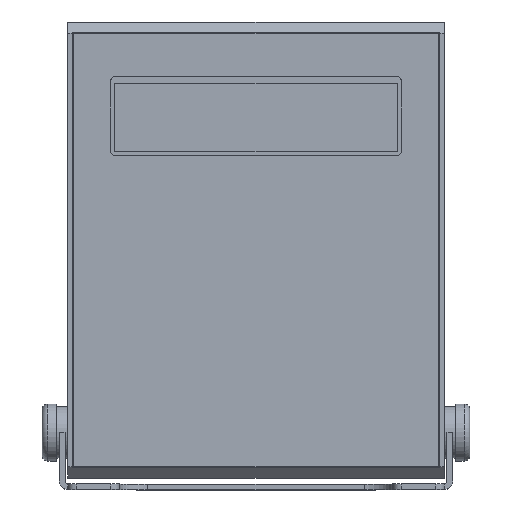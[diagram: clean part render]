
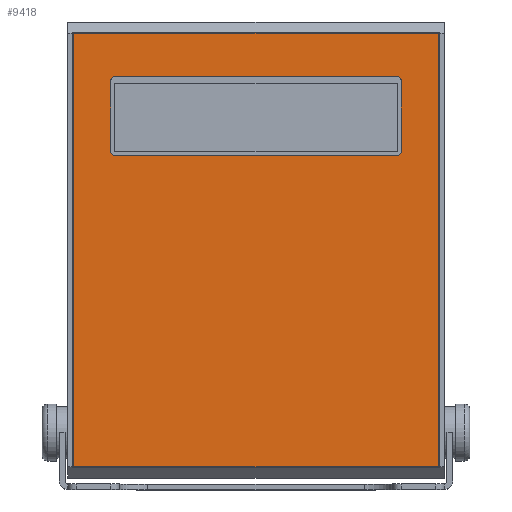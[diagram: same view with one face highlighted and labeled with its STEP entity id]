
A CAD part, top view. The second image highlights one B-rep face of the part: STEP entity #9418.
In plain terms, the highlighted planar face has unit normal (0, 0, 1).
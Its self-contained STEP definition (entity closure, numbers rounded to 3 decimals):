
#22 = EDGE_CURVE ( 'NONE', #6034, #7104, #6963, .T. ) ;
#47 = AXIS2_PLACEMENT_3D ( 'NONE', #2997, #5345, #6392 ) ;
#81 = VERTEX_POINT ( 'NONE', #2320 ) ;
#95 = VERTEX_POINT ( 'NONE', #4885 ) ;
#184 = FACE_BOUND ( 'NONE', #7719, .T. ) ;
#279 = CARTESIAN_POINT ( 'NONE',  ( 51., 59., 0. ) ) ;
#407 = LINE ( 'NONE', #4518, #8745 ) ;
#467 = DIRECTION ( 'NONE',  ( -1., 0., 0. ) ) ;
#568 = DIRECTION ( 'NONE',  ( 0., 0., 1. ) ) ;
#596 = ORIENTED_EDGE ( 'NONE', *, *, #3558, .F. ) ;
#632 = EDGE_CURVE ( 'NONE', #7104, #9065, #9803, .T. ) ;
#809 = DIRECTION ( 'NONE',  ( 1., 0., 0. ) ) ;
#998 = LINE ( 'NONE', #6946, #9951 ) ;
#1347 = ORIENTED_EDGE ( 'NONE', *, *, #1479, .F. ) ;
#1361 = EDGE_CURVE ( 'NONE', #7089, #10673, #998, .T. ) ;
#1409 = ORIENTED_EDGE ( 'NONE', *, *, #6418, .T. ) ;
#1479 = EDGE_CURVE ( 'NONE', #95, #6034, #7323, .T. ) ;
#1532 = ORIENTED_EDGE ( 'NONE', *, *, #7059, .T. ) ;
#1714 = CARTESIAN_POINT ( 'NONE',  ( -64., -76., 0. ) ) ;
#1828 = DIRECTION ( 'NONE',  ( 0., 0., -1. ) ) ;
#1880 = PLANE ( 'NONE',  #3986 ) ;
#2189 = CARTESIAN_POINT ( 'NONE',  ( -51., 0., 0. ) ) ;
#2202 = VECTOR ( 'NONE', #9504, 1000. ) ;
#2320 = CARTESIAN_POINT ( 'NONE',  ( -64., 76., 0. ) ) ;
#2350 = LINE ( 'NONE', #3813, #6137 ) ;
#2383 = CARTESIAN_POINT ( 'NONE',  ( 51., 35., 0. ) ) ;
#2503 = EDGE_CURVE ( 'NONE', #81, #3453, #407, .T. ) ;
#2667 = ORIENTED_EDGE ( 'NONE', *, *, #8949, .F. ) ;
#2737 = CARTESIAN_POINT ( 'NONE',  ( 51., 0., 0. ) ) ;
#2979 = CARTESIAN_POINT ( 'NONE',  ( 0., 61., 0. ) ) ;
#2997 = CARTESIAN_POINT ( 'NONE',  ( -49., 59., 0. ) ) ;
#3041 = DIRECTION ( 'NONE',  ( 1., 0., 0. ) ) ;
#3128 = ORIENTED_EDGE ( 'NONE', *, *, #4698, .F. ) ;
#3232 = CARTESIAN_POINT ( 'NONE',  ( 64., -76., 0. ) ) ;
#3263 = EDGE_CURVE ( 'NONE', #10948, #81, #8006, .T. ) ;
#3306 = VERTEX_POINT ( 'NONE', #2383 ) ;
#3318 = ORIENTED_EDGE ( 'NONE', *, *, #22, .F. ) ;
#3324 = CARTESIAN_POINT ( 'NONE',  ( -49., 61., 0. ) ) ;
#3453 = VERTEX_POINT ( 'NONE', #1714 ) ;
#3507 = CARTESIAN_POINT ( 'NONE',  ( 49., 33., 0. ) ) ;
#3558 = EDGE_CURVE ( 'NONE', #9065, #7089, #5896, .T. ) ;
#3559 = DIRECTION ( 'NONE',  ( 0., 0., 1. ) ) ;
#3595 = VECTOR ( 'NONE', #7038, 1000. ) ;
#3813 = CARTESIAN_POINT ( 'NONE',  ( 64., -76., 0. ) ) ;
#3853 = VERTEX_POINT ( 'NONE', #279 ) ;
#3936 = VECTOR ( 'NONE', #467, 1000. ) ;
#3986 = AXIS2_PLACEMENT_3D ( 'NONE', #6222, #1828, #5221 ) ;
#4032 = ORIENTED_EDGE ( 'NONE', *, *, #2503, .T. ) ;
#4139 = EDGE_CURVE ( 'NONE', #10673, #3306, #4815, .T. ) ;
#4518 = CARTESIAN_POINT ( 'NONE',  ( -64., -76., 0. ) ) ;
#4618 = DIRECTION ( 'NONE',  ( 0., -1., 0. ) ) ;
#4698 = EDGE_CURVE ( 'NONE', #3853, #95, #7973, .T. ) ;
#4815 = CIRCLE ( 'NONE', #4993, 2. ) ;
#4866 = ORIENTED_EDGE ( 'NONE', *, *, #632, .F. ) ;
#4885 = CARTESIAN_POINT ( 'NONE',  ( 49., 61., 0. ) ) ;
#4993 = AXIS2_PLACEMENT_3D ( 'NONE', #5031, #8412, #809 ) ;
#5031 = CARTESIAN_POINT ( 'NONE',  ( 49., 35., 0. ) ) ;
#5062 = CARTESIAN_POINT ( 'NONE',  ( -49., 35., 0. ) ) ;
#5125 = ORIENTED_EDGE ( 'NONE', *, *, #1361, .F. ) ;
#5221 = DIRECTION ( 'NONE',  ( -1., 0., 0. ) ) ;
#5345 = DIRECTION ( 'NONE',  ( 0., 0., 1. ) ) ;
#5661 = CARTESIAN_POINT ( 'NONE',  ( -51., 35., 0. ) ) ;
#5838 = VECTOR ( 'NONE', #6675, 1000. ) ;
#5896 = CIRCLE ( 'NONE', #6757, 2. ) ;
#6034 = VERTEX_POINT ( 'NONE', #3324 ) ;
#6137 = VECTOR ( 'NONE', #8924, 1000. ) ;
#6222 = CARTESIAN_POINT ( 'NONE',  ( 0., 0., 0. ) ) ;
#6392 = DIRECTION ( 'NONE',  ( 1., 0., 0. ) ) ;
#6418 = EDGE_CURVE ( 'NONE', #3453, #8796, #7447, .T. ) ;
#6502 = DIRECTION ( 'NONE',  ( 1., 0., 0. ) ) ;
#6582 = CARTESIAN_POINT ( 'NONE',  ( -49., 33., 0. ) ) ;
#6675 = DIRECTION ( 'NONE',  ( 1., 0., 0. ) ) ;
#6757 = AXIS2_PLACEMENT_3D ( 'NONE', #5062, #3559, #6957 ) ;
#6778 = VECTOR ( 'NONE', #8818, 1000. ) ;
#6946 = CARTESIAN_POINT ( 'NONE',  ( 0., 33., 0. ) ) ;
#6957 = DIRECTION ( 'NONE',  ( 1., 0., 0. ) ) ;
#6963 = CIRCLE ( 'NONE', #47, 2. ) ;
#7038 = DIRECTION ( 'NONE',  ( 0., -1., 0. ) ) ;
#7059 = EDGE_CURVE ( 'NONE', #8796, #10948, #2350, .T. ) ;
#7089 = VERTEX_POINT ( 'NONE', #6582 ) ;
#7104 = VERTEX_POINT ( 'NONE', #10574 ) ;
#7323 = LINE ( 'NONE', #2979, #6778 ) ;
#7447 = LINE ( 'NONE', #8393, #5838 ) ;
#7719 = EDGE_LOOP ( 'NONE', ( #2667, #10388, #5125, #596, #4866, #3318, #1347, #3128 ) ) ;
#7738 = LINE ( 'NONE', #2737, #2202 ) ;
#7887 = FACE_OUTER_BOUND ( 'NONE', #9493, .T. ) ;
#7973 = CIRCLE ( 'NONE', #8323, 2. ) ;
#8006 = LINE ( 'NONE', #10446, #3936 ) ;
#8213 = ORIENTED_EDGE ( 'NONE', *, *, #3263, .T. ) ;
#8323 = AXIS2_PLACEMENT_3D ( 'NONE', #10703, #568, #6502 ) ;
#8393 = CARTESIAN_POINT ( 'NONE',  ( -64., -76., 0. ) ) ;
#8412 = DIRECTION ( 'NONE',  ( 0., 0., 1. ) ) ;
#8745 = VECTOR ( 'NONE', #4618, 1000. ) ;
#8796 = VERTEX_POINT ( 'NONE', #3232 ) ;
#8818 = DIRECTION ( 'NONE',  ( -1., 0., 0. ) ) ;
#8924 = DIRECTION ( 'NONE',  ( 0., 1., 0. ) ) ;
#8949 = EDGE_CURVE ( 'NONE', #3306, #3853, #7738, .T. ) ;
#9065 = VERTEX_POINT ( 'NONE', #5661 ) ;
#9418 = ADVANCED_FACE ( 'NONE', ( #184, #7887 ), #1880, .F. ) ;
#9493 = EDGE_LOOP ( 'NONE', ( #4032, #1409, #1532, #8213 ) ) ;
#9504 = DIRECTION ( 'NONE',  ( 0., 1., 0. ) ) ;
#9552 = CARTESIAN_POINT ( 'NONE',  ( 64., 76., 0. ) ) ;
#9803 = LINE ( 'NONE', #2189, #3595 ) ;
#9951 = VECTOR ( 'NONE', #3041, 1000. ) ;
#10388 = ORIENTED_EDGE ( 'NONE', *, *, #4139, .F. ) ;
#10446 = CARTESIAN_POINT ( 'NONE',  ( -64., 76., 0. ) ) ;
#10574 = CARTESIAN_POINT ( 'NONE',  ( -51., 59., 0. ) ) ;
#10673 = VERTEX_POINT ( 'NONE', #3507 ) ;
#10703 = CARTESIAN_POINT ( 'NONE',  ( 49., 59., 0. ) ) ;
#10948 = VERTEX_POINT ( 'NONE', #9552 ) ;
